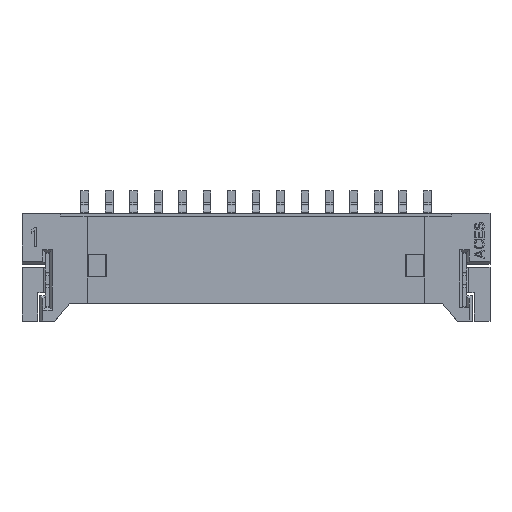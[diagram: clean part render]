
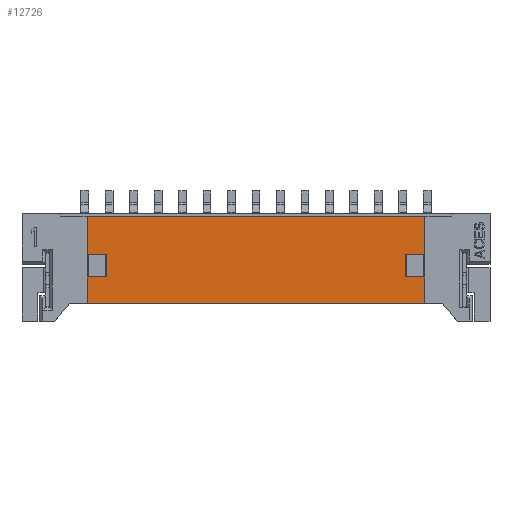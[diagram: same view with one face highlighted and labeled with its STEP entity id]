
A CAD part, top view. The second image highlights one B-rep face of the part: STEP entity #12726.
In plain terms, the highlighted planar face has unit normal (0, 0, 1).
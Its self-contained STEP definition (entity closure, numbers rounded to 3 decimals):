
#209=DIRECTION('',(0.,-1.,0.));
#210=VECTOR('',#209,1.35);
#211=CARTESIAN_POINT('',(3.325,2.25,0.048));
#212=LINE('',#211,#210);
#221=DIRECTION('',(1.,0.,0.));
#222=VECTOR('',#221,1.);
#223=CARTESIAN_POINT('',(19.575,2.25,0.048));
#224=LINE('',#223,#222);
#225=DIRECTION('',(0.,-1.,0.));
#226=VECTOR('',#225,1.35);
#227=CARTESIAN_POINT('',(20.575,2.25,0.048));
#228=LINE('',#227,#226);
#229=DIRECTION('',(-1.,0.,0.));
#230=VECTOR('',#229,17.25);
#231=CARTESIAN_POINT('',(20.575,0.9,0.048));
#232=LINE('',#231,#230);
#233=DIRECTION('',(1.,0.,0.));
#234=VECTOR('',#233,1.);
#235=CARTESIAN_POINT('',(3.325,2.25,0.048));
#236=LINE('',#235,#234);
#237=DIRECTION('',(0.,1.,0.));
#238=VECTOR('',#237,1.15);
#239=CARTESIAN_POINT('',(4.325,2.25,0.048));
#240=LINE('',#239,#238);
#241=DIRECTION('',(-1.,0.,0.));
#242=VECTOR('',#241,1.);
#243=CARTESIAN_POINT('',(4.325,3.4,0.048));
#244=LINE('',#243,#242);
#245=DIRECTION('',(1.,0.,0.));
#246=VECTOR('',#245,17.25);
#247=CARTESIAN_POINT('',(3.325,5.35,0.048));
#248=LINE('',#247,#246);
#249=DIRECTION('',(0.,-1.,0.));
#250=VECTOR('',#249,1.95);
#251=CARTESIAN_POINT('',(20.575,5.35,0.048));
#252=LINE('',#251,#250);
#253=DIRECTION('',(-1.,0.,0.));
#254=VECTOR('',#253,1.);
#255=CARTESIAN_POINT('',(20.575,3.4,0.048));
#256=LINE('',#255,#254);
#257=DIRECTION('',(0.,-1.,0.));
#258=VECTOR('',#257,1.15);
#259=CARTESIAN_POINT('',(19.575,3.4,0.048));
#260=LINE('',#259,#258);
#5361=DIRECTION('',(0.,-1.,0.));
#5362=VECTOR('',#5361,1.95);
#5363=CARTESIAN_POINT('',(3.325,5.35,0.048));
#5364=LINE('',#5363,#5362);
#9889=CARTESIAN_POINT('',(19.575,3.4,0.048));
#9890=VERTEX_POINT('',#9889);
#9891=CARTESIAN_POINT('',(20.575,3.4,0.048));
#9892=VERTEX_POINT('',#9891);
#9915=CARTESIAN_POINT('',(3.325,0.9,0.048));
#9916=VERTEX_POINT('',#9915);
#9917=CARTESIAN_POINT('',(20.575,0.9,0.048));
#9918=VERTEX_POINT('',#9917);
#9961=CARTESIAN_POINT('',(4.325,2.25,0.048));
#9962=VERTEX_POINT('',#9961);
#9963=CARTESIAN_POINT('',(3.325,2.25,0.048));
#9964=VERTEX_POINT('',#9963);
#9965=CARTESIAN_POINT('',(4.325,3.4,0.048));
#9966=VERTEX_POINT('',#9965);
#9967=CARTESIAN_POINT('',(3.325,3.4,0.048));
#9968=VERTEX_POINT('',#9967);
#9969=CARTESIAN_POINT('',(3.325,5.35,0.048));
#9970=VERTEX_POINT('',#9969);
#9971=CARTESIAN_POINT('',(20.575,5.35,0.048));
#9972=VERTEX_POINT('',#9971);
#9977=CARTESIAN_POINT('',(19.575,2.25,0.048));
#9978=CARTESIAN_POINT('',(20.575,2.25,0.048));
#9979=VERTEX_POINT('',#9977);
#9980=VERTEX_POINT('',#9978);
#12700=CARTESIAN_POINT('',(11.95,3.125,0.048));
#12701=DIRECTION('',(0.,0.,1.));
#12702=DIRECTION('',(1.,0.,0.));
#12703=AXIS2_PLACEMENT_3D('',#12700,#12701,#12702);
#12704=PLANE('',#12703);
#12706=ORIENTED_EDGE('',*,*,#12705,.T.);
#12708=ORIENTED_EDGE('',*,*,#12707,.T.);
#12709=ORIENTED_EDGE('',*,*,#12673,.T.);
#12710=ORIENTED_EDGE('',*,*,#12693,.F.);
#12711=ORIENTED_EDGE('',*,*,#12592,.T.);
#12712=ORIENTED_EDGE('',*,*,#12609,.T.);
#12713=ORIENTED_EDGE('',*,*,#12628,.T.);
#12715=ORIENTED_EDGE('',*,*,#12714,.F.);
#12717=ORIENTED_EDGE('',*,*,#12716,.T.);
#12719=ORIENTED_EDGE('',*,*,#12718,.T.);
#12721=ORIENTED_EDGE('',*,*,#12720,.T.);
#12723=ORIENTED_EDGE('',*,*,#12722,.T.);
#12724=EDGE_LOOP('',(#12706,#12708,#12709,#12710,#12711,#12712,#12713,#12715,
#12717,#12719,#12721,#12723));
#12725=FACE_OUTER_BOUND('',#12724,.F.);
#12726=ADVANCED_FACE('',(#12725),#12704,.T.);
#12592=EDGE_CURVE('',#9964,#9962,#236,.T.);
#12609=EDGE_CURVE('',#9962,#9966,#240,.T.);
#12628=EDGE_CURVE('',#9966,#9968,#244,.T.);
#12673=EDGE_CURVE('',#9918,#9916,#232,.T.);
#12693=EDGE_CURVE('',#9964,#9916,#212,.T.);
#12705=EDGE_CURVE('',#9979,#9980,#224,.T.);
#12707=EDGE_CURVE('',#9980,#9918,#228,.T.);
#12714=EDGE_CURVE('',#9970,#9968,#5364,.T.);
#12716=EDGE_CURVE('',#9970,#9972,#248,.T.);
#12718=EDGE_CURVE('',#9972,#9892,#252,.T.);
#12720=EDGE_CURVE('',#9892,#9890,#256,.T.);
#12722=EDGE_CURVE('',#9890,#9979,#260,.T.);
